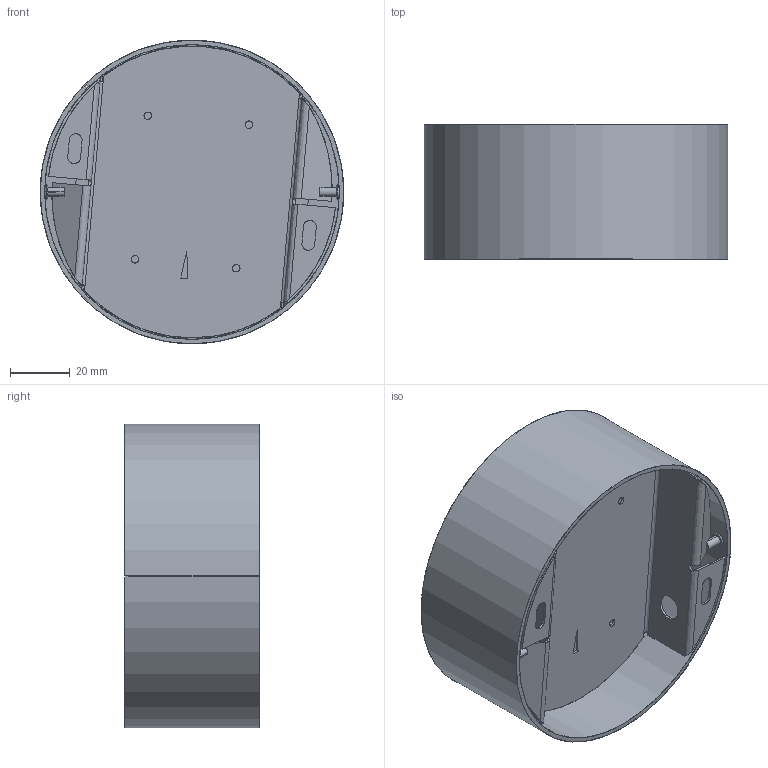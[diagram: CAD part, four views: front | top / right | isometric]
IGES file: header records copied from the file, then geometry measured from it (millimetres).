
Start section: SolidWorks IGES file using analytic representation for surfaces
Global section: file name: F:\GABRYSIA\MODELE 3D\FLEA-8203-8202-WWW\FLEA-8203-8202.IGS; native system: SolidWorks 2017; preprocessor: SolidWorks 2017; author: Togambi; date: 200925.112813; units: millimetre
Bounding box: 101.6 x 45 x 101.6 mm (x, y, z)
Surface area: 88789.7 mm2 (no closed solid volume)
Topology: 0 solids, 0 shells, 183 faces, 3602 edges, 3602 vertices
Faces by surface type: revolution 95, bspline 88
